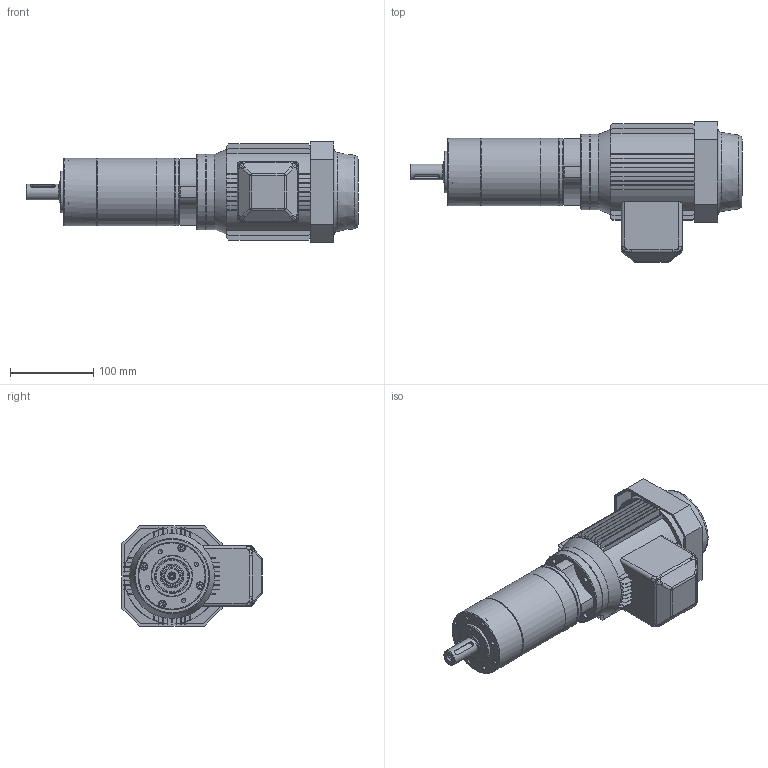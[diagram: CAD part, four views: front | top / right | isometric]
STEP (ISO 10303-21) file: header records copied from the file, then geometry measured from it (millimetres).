
FILE_DESCRIPTION((''),'2;1');
FILE_NAME('Y:\Archivi Inventor\Prog_16\Mep_80\Figurini\FIGURINI PER WEB\4s\Fig_MEP80_4s_63B14.stp','2013-09-26T11:40:06',('tech3'),(''),'Autodesk Inventor 2013','Autodesk Inventor 2013','');
FILE_SCHEMA(('AUTOMOTIVE_DESIGN { 1 0 10303 214 1 1 1 1 }'));
Length unit declared in the file: millimetre
Products named in the file (12): Fig_MEP80_4S; Fig_1608001_C2; Fig_1608002_A0; Fig_1608003_A0; Fig_1608010_A1; 16108011-A1; PARAOLIO 25x40x7; UNI 5931 M 5 x  40; UNI 5931 M 5 x  45; 1608004-B0; Fig_1608001_D2; motori B14 63
Assembly tree (18 placements, depth 2):
  Fig_MEP80_4S
    Fig_1608001_C2
    Fig_1608002_A0
    Fig_1608003_A0
    Fig_1608010_A1
    16108011-A1  x2
    PARAOLIO 25x40x7
    UNI 5931 M 5 x  40  x4
    UNI 5931 M 5 x  45  x4
    1608004-B0
    Fig_1608001_D2
    motori B14 63
Bounding box: 397.7 x 168 x 120 mm (x, y, z)
Volume: 2698896.7 mm3; surface area: 309988.3 mm2
Topology: 18 solids, 21 shells, 733 faces, 1837 edges, 1160 vertices
Faces by surface type: plane 411, cylinder 191, cone 73, bspline 32, torus 22, sphere 4
Full cylindrical faces by diameter (mm): 4.134 x12, 4.917 x5, 5 x18, 5.5 x28, 6 x4, 6.4 x1, 8.5 x8, 9 x8, 11 x1, 18.4 x1, 19 x1, 25 x1, 28.467 x1, 35 x1, 37.5 x1, 40 x2, 42 x2, 50 x1, 58.45 x4, 59.405 x3, 60 x2, 62.16 x3, 63 x1, 79.5 x2, 81 x4, 90 x2
Entity records: 20442 total; most frequent: CARTESIAN_POINT 5555, DIRECTION 2998, ORIENTED_EDGE 2764, EDGE_CURVE 1382, AXIS2_PLACEMENT_3D 1089, VERTEX_POINT 950, EDGE_LOOP 878, VECTOR 820
